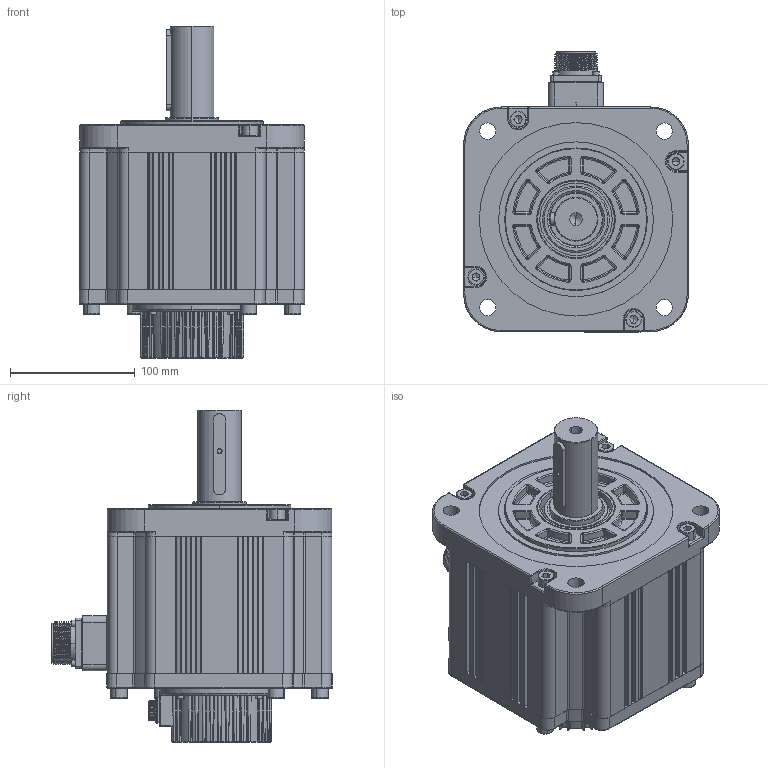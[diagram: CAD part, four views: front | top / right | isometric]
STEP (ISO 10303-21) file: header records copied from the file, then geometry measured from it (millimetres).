
FILE_DESCRIPTION (( 'STEP AP214' ), '1' );
FILE_NAME ('9120122236+V7E-M18D-2R915-D1.STEP', '2021-08-10T03:21:33', ( '' ), ( '' ), 'SwSTEP 2.0', 'SolidWorks 2014', '' );
FILE_SCHEMA (( 'AUTOMOTIVE_DESIGN' ));
Length unit declared in the file: millimetre
Products named in the file (16): SC180瑤脣釱1015; SCSC瑤諾脣芛 16M-9H; 坋趼攫芛蹟佪 M2X8-8  H type-N; 180粣-47沺郋; 埴芛囀鞠褒 ISO 4762 M8 x 30 --- 30N; SC晤鎢ん欶200908_10郋; 埴芛囀鞠褒 ISO 4762 M3 x 30 --- 18N; 埴芛囀鞠褒 ISO 4762 M3 x 10 --- 10N; 180#綴傷裔; SCCMS3102A22-22P-Z; 180#陔隅赽201019; SC180儂褲1009; 零件1^180#新电机-无刹车 201021; SC蚐猾 D00B999YF8-TC 44-62-10; SC180ヶ傷裔1009; 9120122236+V7E-M18D-2R915-D1
Assembly tree (31 placements, depth 3):
  9120122236+V7E-M18D-2R915-D1
    180#陔隅赽201019
      SC180儂褲1009
      SC180ヶ傷裔1009
      SCCMS3102A22-22P-Z
      SC180瑤脣釱1015
    SC晤鎢ん欶200908_10郋
    SCSC瑤諾脣芛 16M-9H
    SC蚐猾 D00B999YF8-TC 44-62-10
    坋趼攫芛蹟佪 M2X8-8  H type-N  x4
    埴芛囀鞠褒 ISO 4762 M3 x 10 --- 10N  x4
    埴芛囀鞠褒 ISO 4762 M8 x 30 --- 30N  x8
    埴芛囀鞠褒 ISO 4762 M3 x 30 --- 18N  x4
    零件1^180#新电机-无刹车 201021
    180粣-47沺郋
    180#綴傷裔
Bounding box: 180.95 x 225.07 x 266 mm (x, y, z)
Volume: 1728211.4 mm3; surface area: 468417.2 mm2
Topology: 30 solids, 30 shells, 3134 faces, 7512 edges, 4341 vertices
Faces by surface type: bspline 1025, cylinder 1021, plane 763, cone 257, torus 64, sphere 4
Entity records: 139205 total; most frequent: CARTESIAN_POINT 54822, ORIENTED_EDGE 12742, DIRECTION 10735, EDGE_CURVE 6371, AXIS2_PLACEMENT_3D 4323, VERTEX_POINT 3786, EDGE_LOOP 2897, ADVANCED_FACE 2711
